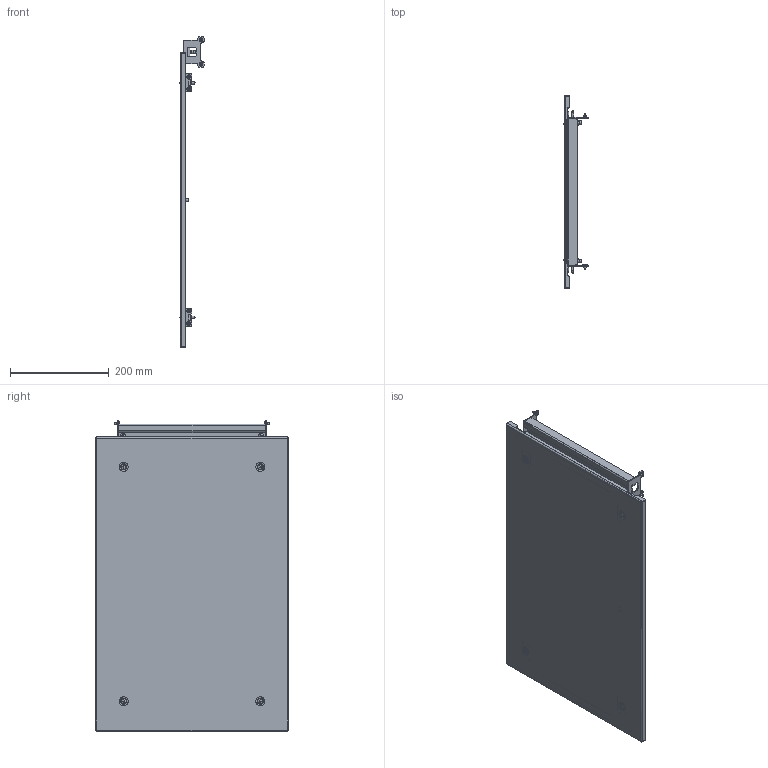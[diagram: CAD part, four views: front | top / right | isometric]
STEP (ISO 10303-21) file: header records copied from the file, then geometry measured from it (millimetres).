
FILE_DESCRIPTION(('STEP AP203'), '1');
FILE_NAME('3630 Ñåêöèîííàÿ ïàíåëü íà âèíòàõ (äëÿ çàêðûòèÿ ñåêöèè) ÑÁ', '', ('UNSPECIFIED'), ('UNSPECIFIED'), 'C3D Converter', 'C3D Toolkit', '');
FILE_SCHEMA(('CONFIG_CONTROL_DESIGN'));
Length unit declared in the file: millimetre
Products named in the file (18): 3630.60.40 СБ; 3631.60.40; 3632.60.40; 3600.40; 3601.40; 3624; 3625; 3604; 3654; 203-0655.61;  202-1103.15-00530
Assembly tree (39 placements, depth 4):
  3630.60.40 СБ
    3631.60.40
      3632.60.40
      (unnamed)
    3600.40
      3601.40
      3624  x2
        3625
        (unnamed)
      (unnamed)  x2
      (unnamed)  x2
      (unnamed)  x4
    3604  x4
      3654
      (unnamed)
    203-0655.61  x4
     202-1103.15-00530  x4
    (unnamed)  x8
Bounding box: 48.98 x 391 x 629.7 mm (x, y, z)
Volume: 600265.4 mm3; surface area: 670312.4 mm2
Topology: 40 solids, 40 shells, 1150 faces, 2892 edges, 1888 vertices
Faces by surface type: plane 665, cylinder 265, bspline 96, cone 73, torus 41, sphere 10
Full cylindrical faces by diameter (mm): 4 x4, 4.134 x6, 4.8 x8, 5 x10, 5.2 x8, 5.3 x2, 5.8 x2, 6 x1, 6.38 x4, 6.4 x4, 6.5 x2, 6.8 x2, 7.5 x12, 7.74 x4, 8.7 x4, 9.2 x4, 9.5 x10, 10 x2, 11.5 x2
Entity records: 19412 total; most frequent: CARTESIAN_POINT 6811, DIRECTION 2273, ORIENTED_EDGE 2080, EDGE_CURVE 1040, AXIS2_PLACEMENT_3D 807, VERTEX_POINT 681, LINE 659, VECTOR 659
